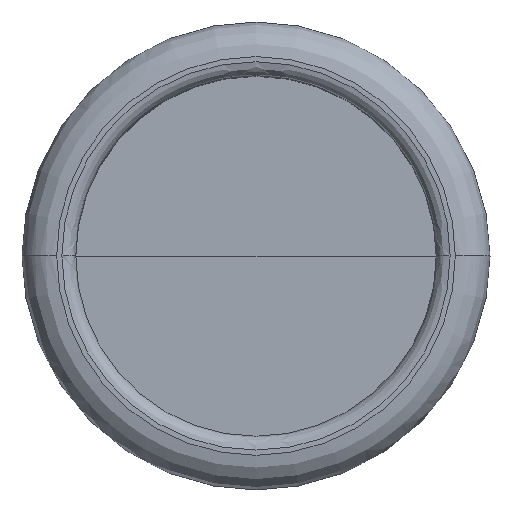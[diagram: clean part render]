
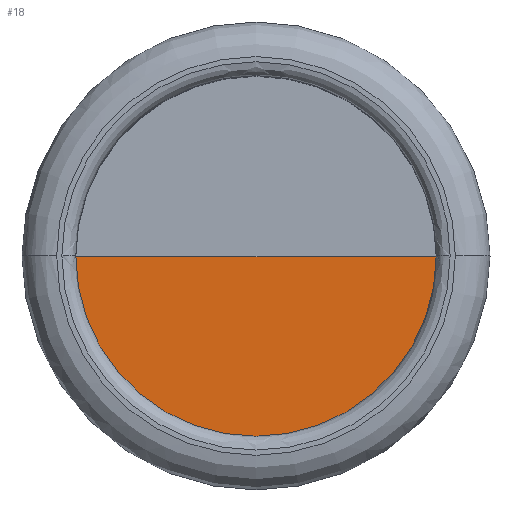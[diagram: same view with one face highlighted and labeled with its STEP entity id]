
A CAD part, top view. The second image highlights one B-rep face of the part: STEP entity #18.
In plain terms, the highlighted planar face has unit normal (0, 0, 1).
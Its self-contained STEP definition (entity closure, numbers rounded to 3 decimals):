
#18=ADVANCED_FACE('',(#29),#156,.T.);
#29=FACE_OUTER_BOUND('',#41,.T.);
#41=EDGE_LOOP('',(#60,#61,#62));
#60=ORIENTED_EDGE('',*,*,#103,.T.);
#61=ORIENTED_EDGE('',*,*,#93,.F.);
#62=ORIENTED_EDGE('',*,*,#94,.T.);
#93=EDGE_CURVE('',#145,#144,#109,.T.);
#94=EDGE_CURVE('',#145,#150,#119,.T.);
#103=EDGE_CURVE('',#150,#144,#111,.T.);
#109=B_SPLINE_CURVE_WITH_KNOTS('',1,(#676,#677),.UNSPECIFIED.,.F.,.F.,(2,
2),(393.643,546.643),.UNSPECIFIED.);
#111=B_SPLINE_CURVE_WITH_KNOTS('',1,(#727,#728),.UNSPECIFIED.,.F.,.F.,(2,
2),(393.643,546.643),.UNSPECIFIED.);
#119=TRIMMED_CURVE($,#131,(#679),(#680),.T.,.CARTESIAN.);
#131=CIRCLE('',#259,156.);
#144=VERTEX_POINT('',#632);
#145=VERTEX_POINT('',#633);
#150=VERTEX_POINT('',#638);
#156=PLANE('',#253);
#253=AXIS2_PLACEMENT_3D('',#450,#273,$);
#259=AXIS2_PLACEMENT_3D($,#678,#281,#282);
#273=DIRECTION('',(0.,0.,1.));
#281=DIRECTION('',(0.,0.,1.));
#282=DIRECTION('',(-1.,0.,0.));
#450=CARTESIAN_POINT('',(-156.,0.,48.921));
#632=CARTESIAN_POINT('',(0.,0.,48.921));
#633=CARTESIAN_POINT('',(-156.,0.,48.921));
#638=CARTESIAN_POINT('',(156.,0.,48.921));
#676=CARTESIAN_POINT('',(-156.,0.,48.921));
#677=CARTESIAN_POINT('',(0.,0.,48.921));
#678=CARTESIAN_POINT('',(0.,0.,48.921));
#679=CARTESIAN_POINT('',(-156.,0.,48.921));
#680=CARTESIAN_POINT('',(156.,0.,48.921));
#727=CARTESIAN_POINT('',(156.,0.,48.921));
#728=CARTESIAN_POINT('',(0.,0.,48.921));
